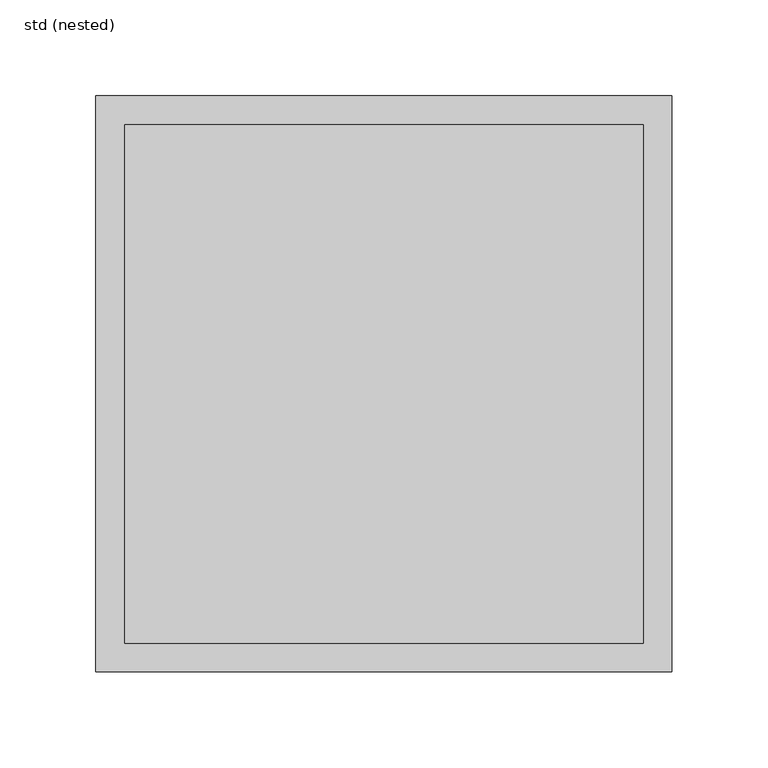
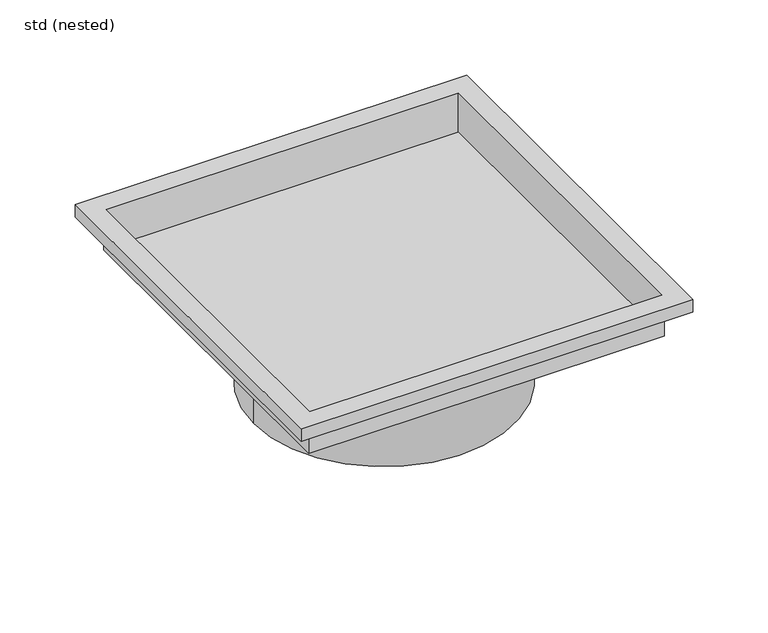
"""IFC4 building model written with IfcOpenShell, lengths in millimetres: sanitary terminal geometry, ZZZ_do not use_PF_ST_UN_telescopic gully top_ACO : std (nested)."""

from ifc_helpers import new_model, si_unit, frame, origin, place, context, project, spatial, polyline, circle_curve, faceted_brep, source, transform, mapped, element, save
from ifc_brep_helpers import plane_surface, cylinder_surface, revolved_surface, advanced_brep


def std_nested_489a93e3(model_context):
    return source(origin(), model_context, "Body", "SolidModel", [
        advanced_brep(
        [(-100.0, 0.0, -104.0), (100.0, 0.0, -104.0), (100.0, 0.0, -45.5), (-100.0, 0.0, -45.5), (-109.0, 0.0, -33.0), (109.0, 0.0, -33.0)],
        [
            (0, 1, circle_curve(frame((0.0, 0.0, -104.0), z_axis=(0.0, 0.0, -1.0), x_axis=(1.0, 0.0, 0.0)), 100.0)),
            (1, 0, circle_curve(frame((0.0, 0.0, -104.0), z_axis=(0.0, 0.0, -1.0), x_axis=(1.0, 0.0, 0.0)), 100.0)),
            (1, 2),
            (2, 3, circle_curve(frame((0.0, 0.0, -45.5), z_axis=(0.0, 0.0, -1.0), x_axis=(1.0, 0.0, 0.0)), 100.0)),
            (3, 0),
            (3, 2, circle_curve(frame((0.0, 0.0, -45.5), z_axis=(0.0, 0.0, -1.0), x_axis=(1.0, 0.0, 0.0)), 100.0)),
            (4, 5, circle_curve(frame((0.0, 0.0, -33.0), z_axis=(0.0, 0.0, 1.0), x_axis=(1.0, 0.0, 0.0)), 109.0)),
            (5, 4, circle_curve(frame((0.0, 0.0, -33.0), z_axis=(0.0, 0.0, 1.0), x_axis=(-1.0, 0.0, 0.0)), 109.0)),
            (4, 3),
            (2, 5),
        ],
        [
            plane_surface(frame((100.0, 0.0, -104.0), z_axis=(0.0, 0.0, -1.0), x_axis=(0.0, -1.0, 0.0))),
            cylinder_surface(frame((0.0, 0.0, -104.0), z_axis=(0.0, 0.0, 1.0), x_axis=(1.0, 0.0, 0.0)), 100.0),
            plane_surface(frame((0.0, 0.0, -33.0), z_axis=(0.0, 0.0, 1.0), x_axis=(0.0, -1.0, 0.0))),
            revolved_surface(polyline([(100.00000000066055, 0.0, -45.5), (109.0, 0.0, -33.0)]), (0.0, 0.0, -184.3888889), (0.0, 0.0, 1.0)),
            revolved_surface(polyline([(-100.00000000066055, 0.0, -45.5), (-109.0, 0.0, -33.0)]), (0.0, 0.0, -184.3888889), (0.0, 0.0, 1.0)),
        ],
        [
            (0, [[1, 2]]),
            (1, [[-2, 3, 4, 5]]),
            (1, [[-1, -5, 6, -3]]),
            (2, [[7, 8]]),
            (3, [[-7, 9, -4, 10]]),
            (4, [[-8, -10, -6, -9]]),
        ],
    ),
        faceted_brep([(136.25, 136.25, -33.0), (136.25, -136.25, -33.0), (-136.25, -136.25, -33.0), (-136.25, 136.25, -33.0), (135.0, -135.0, -31.75), (135.0, 135.0, -31.75), (-135.0, 135.0, -31.75), (-135.0, -135.0, -31.75), (-136.25, 136.25, -10.0), (136.25, 136.25, -10.0), (-136.25, -136.25, -10.0), (136.25, -136.25, -10.0), (135.0, -135.0, 0.0), (135.0, 135.0, 0.0), (-135.0, -135.0, 0.0), (-135.0, 135.0, 0.0), (150.0, 150.0, -10.0), (150.0, -150.0, -10.0), (-150.0, -150.0, -10.0), (-150.0, 150.0, -10.0), (150.0, 150.0, 0.0), (-150.0, 150.0, 0.0), (-150.0, -150.0, 0.0), (150.0, -150.0, 0.0)], [[[0, 1, 2, 3]], [[4, 5, 6, 7]], [[0, 3, 8, 9]], [[3, 2, 10, 8]], [[2, 1, 11, 10]], [[1, 0, 9, 11]], [[5, 4, 12, 13]], [[12, 4, 7, 14]], [[14, 7, 6, 15]], [[5, 13, 15, 6]], [[16, 17, 18, 19], [9, 8, 10, 11]], [[20, 21, 22, 23], [13, 12, 14, 15]], [[16, 19, 21, 20]], [[19, 18, 22, 21]], [[18, 17, 23, 22]], [[17, 16, 20, 23]]]),
    ])


if __name__ == "__main__":
    model = new_model("IFC4")
    model_context = context("Model", 3, world=origin())
    ifc_project = project(units=[si_unit("LENGTHUNIT", "METRE", prefix="MILLI")], contexts=[model_context])
    site = spatial("IfcSite", under=ifc_project)
    building = spatial("IfcBuilding", under=site)
    placement = place(None, origin())
    std_nested_shape = std_nested_489a93e3(model_context)
    element("IfcSanitaryTerminal", 1, ObjectType="ZZZ_do not use_PF_ST_UN_telescopic gully top_ACO : std (nested)", at=placement, inside=building, context=model_context, shape_type="MappedRepresentation", body=[
        mapped(std_nested_shape, transform((0.0, 0.0, 0.0), x_axis=(1.0, 0.0, 0.0), y_axis=(0.0, 1.0, 0.0), z_axis=(0.0, 0.0, 1.0))),
    ])
    save(model, "model.ifc")
